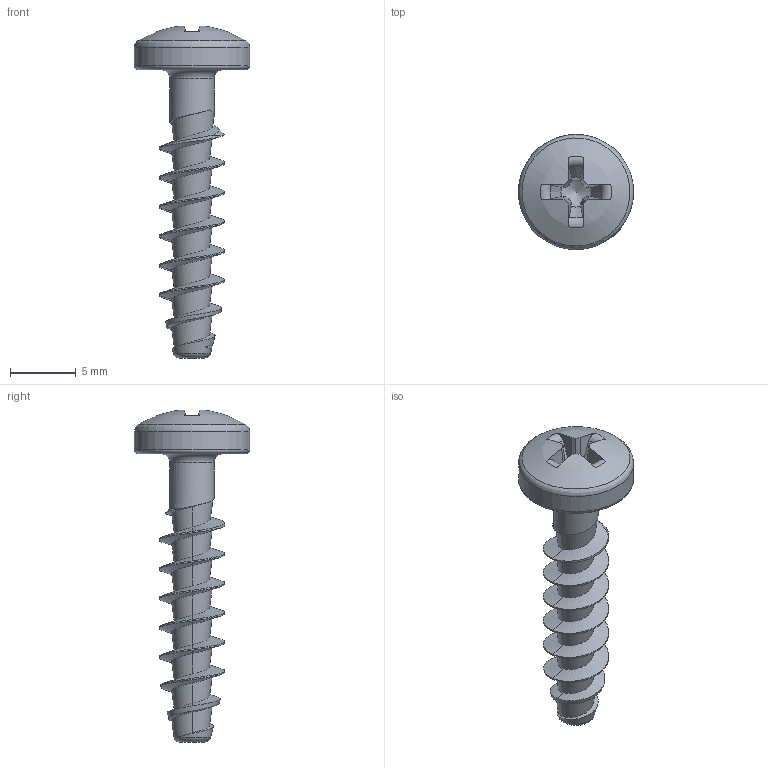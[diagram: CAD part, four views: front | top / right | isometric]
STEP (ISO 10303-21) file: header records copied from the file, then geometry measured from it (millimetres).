
FILE_DESCRIPTION(/* description */ (''),/* implementation_level */ '2;1');
FILE_NAME(/* name */ 'KN1032-Neu-STS-50x22-H2.step',/* time_stamp */ '2018-08-15T15:49:16+02:00',/* author */ (''),/* organization */ (''),/* preprocessor_version */ 'ST-DEVELOPER v16',/* originating_system */ 'SIEMENS PLM Software NX 10.0',/* authorisation */ '');
FILE_SCHEMA (('AUTOMOTIVE_DESIGN { 1 0 10303 214 3 1 1 1 }'));
Length unit declared in the file: millimetre
Products named in the file (1): KN1032-STS-50x22-H2
Bounding box: 8.8 x 8.8 x 25.34 mm (x, y, z)
Volume: 339.2 mm3; surface area: 553.9 mm2
Topology: 1 solids, 1 shells, 65 faces, 169 edges, 106 vertices
Faces by surface type: bspline 27, plane 18, torus 8, cone 7, cylinder 4, sphere 1
Full cylindrical faces by diameter (mm): 3.39 x1, 8.8 x1
Entity records: 3592 total; most frequent: CARTESIAN_POINT 2275, ORIENTED_EDGE 306, DIRECTION 190, EDGE_CURVE 153, VERTEX_POINT 100, B_SPLINE_CURVE_WITH_KNOTS 78, AXIS2_PLACEMENT_3D 77, EDGE_LOOP 72
